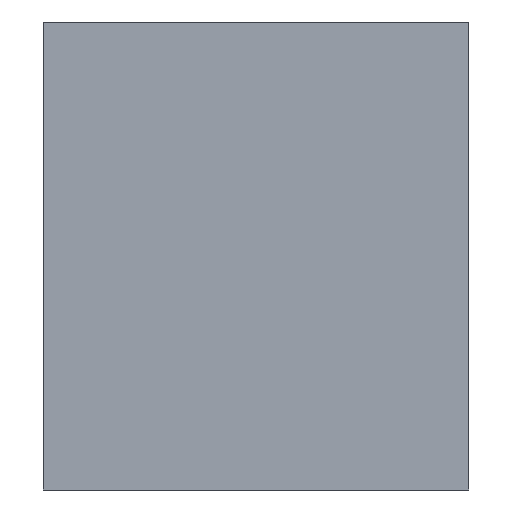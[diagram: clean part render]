
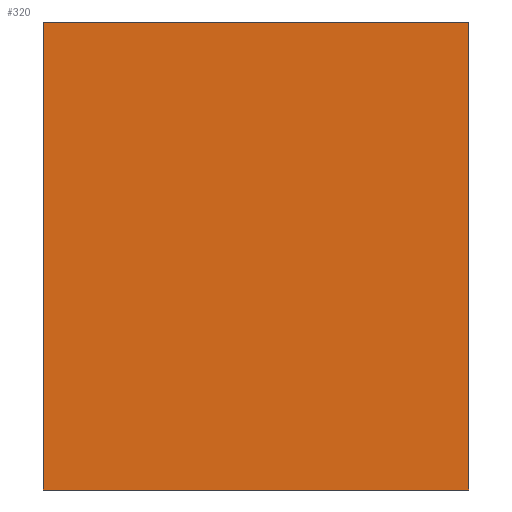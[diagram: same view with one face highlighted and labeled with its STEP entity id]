
A CAD part, left-side view. The second image highlights one B-rep face of the part: STEP entity #320.
In plain terms, the highlighted planar face has unit normal (-1, 0, 0).
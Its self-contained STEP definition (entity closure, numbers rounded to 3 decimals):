
#320=ADVANCED_FACE('',(#769),#6237,.T.);
#769=FACE_OUTER_BOUND('',#1244,.T.);
#1244=EDGE_LOOP('',(#2624,#2625,#2626,#2627));
#2624=ORIENTED_EDGE('',*,*,#4083,.F.);
#2625=ORIENTED_EDGE('',*,*,#4075,.F.);
#2626=ORIENTED_EDGE('',*,*,#4084,.F.);
#2627=ORIENTED_EDGE('',*,*,#4079,.T.);
#4075=EDGE_CURVE('',#5860,#5861,#4872,.T.);
#4079=EDGE_CURVE('',#5864,#5865,#4876,.T.);
#4083=EDGE_CURVE('',#5861,#5865,#4880,.T.);
#4084=EDGE_CURVE('',#5864,#5860,#4881,.T.);
#4872=B_SPLINE_CURVE_WITH_KNOTS('',1,(#13506,#13507),.UNSPECIFIED.,.F.,
 .F.,(2,2),(0.,100.),.UNSPECIFIED.);
#4876=B_SPLINE_CURVE_WITH_KNOTS('',1,(#13514,#13515),.UNSPECIFIED.,.F.,
 .F.,(2,2),(-100.,0.),.UNSPECIFIED.);
#4880=B_SPLINE_CURVE_WITH_KNOTS('',1,(#13522,#13523),.UNSPECIFIED.,.F.,
 .F.,(2,2),(-110.,0.),.UNSPECIFIED.);
#4881=B_SPLINE_CURVE_WITH_KNOTS('',1,(#13524,#13525),.UNSPECIFIED.,.F.,
 .F.,(2,2),(-110.,0.),.UNSPECIFIED.);
#5860=VERTEX_POINT('',#13394);
#5861=VERTEX_POINT('',#13395);
#5864=VERTEX_POINT('',#13398);
#5865=VERTEX_POINT('',#13399);
#6237=PLANE('',#6690);
#6690=AXIS2_PLACEMENT_3D('',#13186,#6884,$);
#6884=DIRECTION('',(-1.,0.,0.));
#13186=CARTESIAN_POINT('',(-50.,-115.,-66.));
#13394=CARTESIAN_POINT('',(-50.,-5.,55.));
#13395=CARTESIAN_POINT('',(-50.,-105.,55.));
#13398=CARTESIAN_POINT('',(-50.,-5.,-55.));
#13399=CARTESIAN_POINT('',(-50.,-105.,-55.));
#13506=CARTESIAN_POINT('',(-50.,-5.,55.));
#13507=CARTESIAN_POINT('',(-50.,-105.,55.));
#13514=CARTESIAN_POINT('',(-50.,-5.,-55.));
#13515=CARTESIAN_POINT('',(-50.,-105.,-55.));
#13522=CARTESIAN_POINT('',(-50.,-105.,55.));
#13523=CARTESIAN_POINT('',(-50.,-105.,-55.));
#13524=CARTESIAN_POINT('',(-50.,-5.,-55.));
#13525=CARTESIAN_POINT('',(-50.,-5.,55.));
